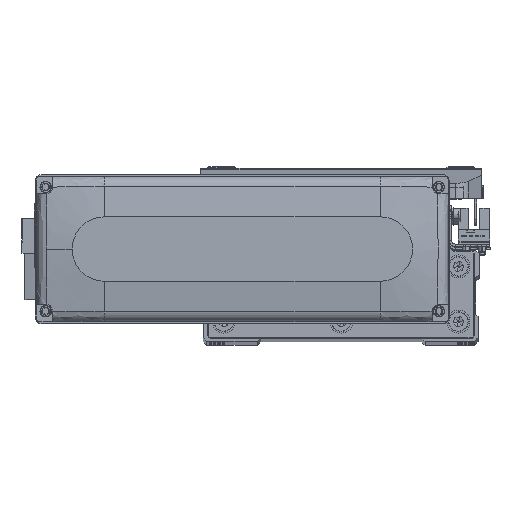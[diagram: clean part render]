
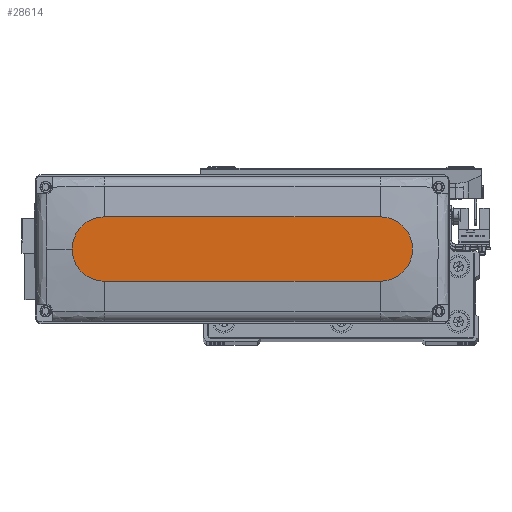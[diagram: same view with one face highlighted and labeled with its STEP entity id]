
A CAD part, top view. The second image highlights one B-rep face of the part: STEP entity #28614.
In plain terms, the highlighted planar face has unit normal (0, 0, 1).
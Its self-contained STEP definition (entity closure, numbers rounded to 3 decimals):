
#225 = AXIS2_PLACEMENT_3D ( 'NONE', #40561, #7791, #22391 ) ;
#508 = ORIENTED_EDGE ( 'NONE', *, *, #12119, .T. ) ;
#3071 = LINE ( 'NONE', #17677, #31116 ) ;
#3421 = CIRCLE ( 'NONE', #30181, 14. ) ;
#4805 = EDGE_CURVE ( 'NONE', #43361, #14224, #20887, .T. ) ;
#5501 = VERTEX_POINT ( 'NONE', #21294 ) ;
#6354 = CARTESIAN_POINT ( 'NONE',  ( -60., -14., 28.5 ) ) ;
#7791 = DIRECTION ( 'NONE',  ( 0., 0., 1. ) ) ;
#7948 = DIRECTION ( 'NONE',  ( 0., 0., 1. ) ) ;
#8154 = DIRECTION ( 'NONE',  ( 0., 0., 1. ) ) ;
#8752 = AXIS2_PLACEMENT_3D ( 'NONE', #40711, #7948, #22549 ) ;
#8839 = EDGE_LOOP ( 'NONE', ( #28578, #30412, #21410, #508, #16997 ) ) ;
#9947 = AXIS2_PLACEMENT_3D ( 'NONE', #17953, #32554, #47154 ) ;
#10150 = VECTOR ( 'NONE', #20949, 1000. ) ;
#11541 = FACE_OUTER_BOUND ( 'NONE', #8839, .T. ) ;
#12119 = EDGE_CURVE ( 'NONE', #22547, #43361, #3421, .T. ) ;
#12375 = EDGE_CURVE ( 'NONE', #14224, #5501, #3071, .T. ) ;
#14224 = VERTEX_POINT ( 'NONE', #35610 ) ;
#16345 = VERTEX_POINT ( 'NONE', #31979 ) ;
#16997 = ORIENTED_EDGE ( 'NONE', *, *, #4805, .T. ) ;
#17494 = CARTESIAN_POINT ( 'NONE',  ( 74., 0., 28.5 ) ) ;
#17677 = CARTESIAN_POINT ( 'NONE',  ( -60., 14., 28.5 ) ) ;
#17953 = CARTESIAN_POINT ( 'NONE',  ( -60., 0., 28.5 ) ) ;
#20887 = CIRCLE ( 'NONE', #225, 14. ) ;
#20949 = DIRECTION ( 'NONE',  ( 1., 0., 0. ) ) ;
#21294 = CARTESIAN_POINT ( 'NONE',  ( -60., 14., 28.5 ) ) ;
#21410 = ORIENTED_EDGE ( 'NONE', *, *, #22634, .T. ) ;
#22391 = DIRECTION ( 'NONE',  ( 1., 0., 0. ) ) ;
#22547 = VERTEX_POINT ( 'NONE', #42246 ) ;
#22549 = DIRECTION ( 'NONE',  ( 1., 0., 0. ) ) ;
#22634 = EDGE_CURVE ( 'NONE', #16345, #22547, #39128, .T. ) ;
#22755 = DIRECTION ( 'NONE',  ( 1., 0., 0. ) ) ;
#24471 = CIRCLE ( 'NONE', #9947, 14. ) ;
#26142 = PLANE ( 'NONE',  #8752 ) ;
#28578 = ORIENTED_EDGE ( 'NONE', *, *, #12375, .T. ) ;
#28614 = ADVANCED_FACE ( 'NONE', ( #11541 ), #26142, .T. ) ;
#30181 = AXIS2_PLACEMENT_3D ( 'NONE', #40910, #8154, #22755 ) ;
#30412 = ORIENTED_EDGE ( 'NONE', *, *, #36194, .T. ) ;
#31116 = VECTOR ( 'NONE', #32268, 1000. ) ;
#31979 = CARTESIAN_POINT ( 'NONE',  ( -60., -14., 28.5 ) ) ;
#32268 = DIRECTION ( 'NONE',  ( -1., 0., 0. ) ) ;
#32554 = DIRECTION ( 'NONE',  ( 0., 0., 1. ) ) ;
#35610 = CARTESIAN_POINT ( 'NONE',  ( 60., 14., 28.5 ) ) ;
#36194 = EDGE_CURVE ( 'NONE', #5501, #16345, #24471, .T. ) ;
#39128 = LINE ( 'NONE', #6354, #10150 ) ;
#40561 = CARTESIAN_POINT ( 'NONE',  ( 60., 0., 28.5 ) ) ;
#40711 = CARTESIAN_POINT ( 'NONE',  ( 0., 0., 28.5 ) ) ;
#40910 = CARTESIAN_POINT ( 'NONE',  ( 60., 0., 28.5 ) ) ;
#42246 = CARTESIAN_POINT ( 'NONE',  ( 60., -14., 28.5 ) ) ;
#43361 = VERTEX_POINT ( 'NONE', #17494 ) ;
#47154 = DIRECTION ( 'NONE',  ( 1., 0., 0. ) ) ;
